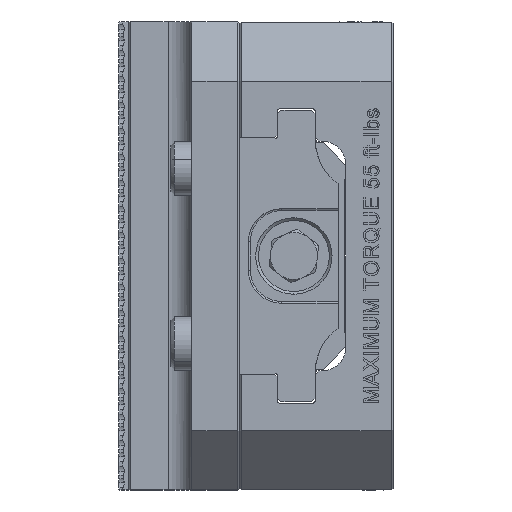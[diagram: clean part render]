
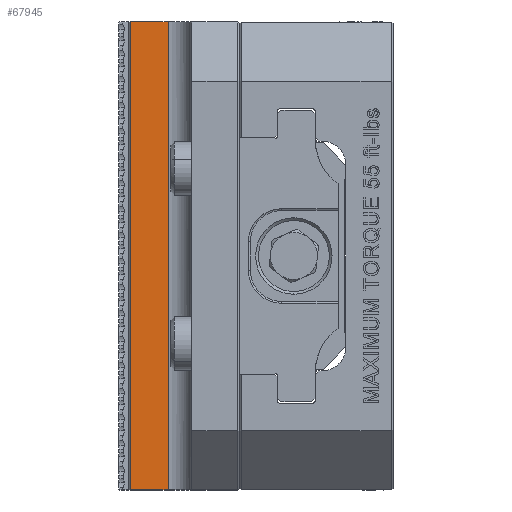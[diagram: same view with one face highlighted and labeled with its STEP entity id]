
A CAD part, left-side view. The second image highlights one B-rep face of the part: STEP entity #67945.
In plain terms, the highlighted planar face has unit normal (-1, 0, 0) as drawn and (1, 0, 0) by its records, which use the part's own axes.
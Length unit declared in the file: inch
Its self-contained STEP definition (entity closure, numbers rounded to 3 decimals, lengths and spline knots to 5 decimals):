
#17472 = CARTESIAN_POINT ( 'NONE',  ( -0.155, 0.535, -2.475 ) ) ;
#20558 = DIRECTION ( 'NONE',  ( 0., 0., -1. ) ) ;
#23916 = LINE ( 'NONE', #142147, #143115 ) ;
#25510 = CARTESIAN_POINT ( 'NONE',  ( -0.155, 0.115, -2.475 ) ) ;
#41478 = VERTEX_POINT ( 'NONE', #25510 ) ;
#44217 = CARTESIAN_POINT ( 'NONE',  ( -0.155, 0.535, 2.475 ) ) ;
#47639 = ORIENTED_EDGE ( 'NONE', *, *, #84198, .F. ) ;
#50373 = DIRECTION ( 'NONE',  ( 0., 0., 1. ) ) ;
#55871 = PLANE ( 'NONE',  #79235 ) ;
#63924 = DIRECTION ( 'NONE',  ( 0., 1., 0. ) ) ;
#64178 = VECTOR ( 'NONE', #50373, 39.37008 ) ;
#64227 = ORIENTED_EDGE ( 'NONE', *, *, #69374, .T. ) ;
#65659 = CARTESIAN_POINT ( 'NONE',  ( -0.155, 0.115, 2.475 ) ) ;
#67466 = DIRECTION ( 'NONE',  ( 0., -1., 0. ) ) ;
#67804 = LINE ( 'NONE', #113413, #129148 ) ;
#67945 = ADVANCED_FACE ( 'NONE', ( #101033 ), #55871, .F. ) ;
#69374 = EDGE_CURVE ( 'NONE', #76450, #41478, #67804, .T. ) ;
#69777 = CARTESIAN_POINT ( 'NONE',  ( -0.155, 0.515, -2.475 ) ) ;
#73532 = DIRECTION ( 'NONE',  ( 0., 1., 0. ) ) ;
#74599 = VERTEX_POINT ( 'NONE', #78413 ) ;
#76450 = VERTEX_POINT ( 'NONE', #65659 ) ;
#78413 = CARTESIAN_POINT ( 'NONE',  ( -0.155, 0.515, 2.475 ) ) ;
#79235 = AXIS2_PLACEMENT_3D ( 'NONE', #44217, #101759, #67466 ) ;
#79804 = EDGE_CURVE ( 'NONE', #99000, #74599, #91285, .T. ) ;
#84198 = EDGE_CURVE ( 'NONE', #76450, #74599, #23916, .T. ) ;
#91285 = LINE ( 'NONE', #131102, #64178 ) ;
#98549 = EDGE_CURVE ( 'NONE', #41478, #99000, #148352, .T. ) ;
#99000 = VERTEX_POINT ( 'NONE', #69777 ) ;
#101033 = FACE_OUTER_BOUND ( 'NONE', #114066, .T. ) ;
#101759 = DIRECTION ( 'NONE',  ( -1., 0., 0. ) ) ;
#106699 = ORIENTED_EDGE ( 'NONE', *, *, #79804, .T. ) ;
#109846 = ORIENTED_EDGE ( 'NONE', *, *, #98549, .T. ) ;
#113413 = CARTESIAN_POINT ( 'NONE',  ( -0.155, 0.115, 2.475 ) ) ;
#114066 = EDGE_LOOP ( 'NONE', ( #109846, #106699, #47639, #64227 ) ) ;
#129148 = VECTOR ( 'NONE', #20558, 39.37008 ) ;
#131102 = CARTESIAN_POINT ( 'NONE',  ( -0.155, 0.515, 2.475 ) ) ;
#142147 = CARTESIAN_POINT ( 'NONE',  ( -0.155, 0.535, 2.475 ) ) ;
#143115 = VECTOR ( 'NONE', #73532, 39.37008 ) ;
#144732 = VECTOR ( 'NONE', #63924, 39.37008 ) ;
#148352 = LINE ( 'NONE', #17472, #144732 ) ;
